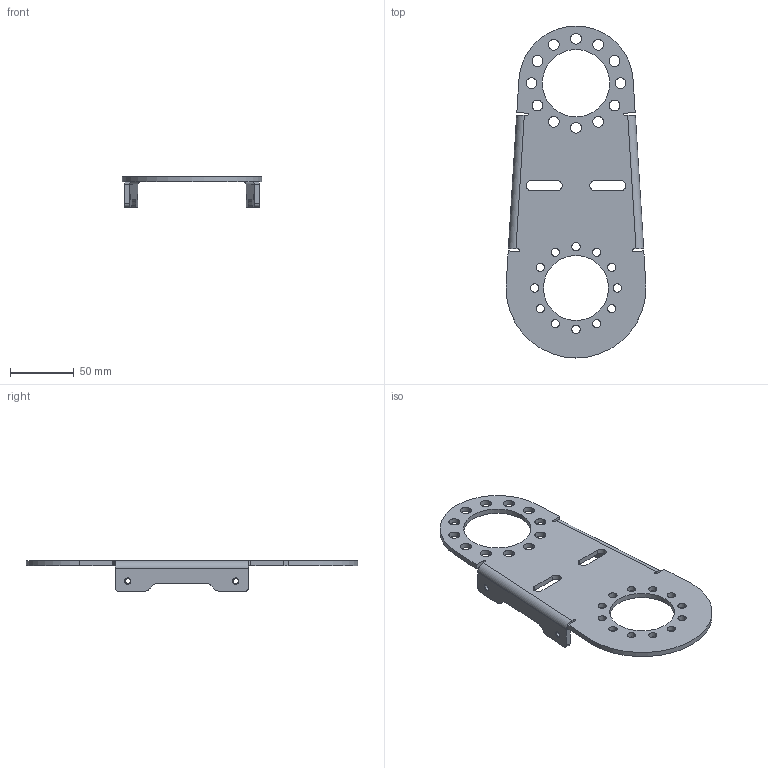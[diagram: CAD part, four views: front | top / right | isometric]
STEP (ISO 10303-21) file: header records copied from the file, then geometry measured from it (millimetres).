
FILE_DESCRIPTION (( 'STEP AP203' ), '1' );
FILE_NAME ('084.821.004.STEP', '2013-01-29T13:15:43', ( 'Alusic' ), ( 'Alusic' ), 'SwSTEP 2.0', 'SolidWorks 2011', '' );
FILE_SCHEMA (( 'CONFIG_CONTROL_DESIGN' ));
Length unit declared in the file: millimetre
Products named in the file (1): 084.821.004
Bounding box: 110 x 261 x 24 mm (x, y, z)
Volume: 85674.4 mm3; surface area: 50259.8 mm2
Topology: 1 solids, 1 shells, 140 faces, 390 edges, 252 vertices
Faces by surface type: cylinder 92, plane 40, cone 8
Entity records: 4759 total; most frequent: DIRECTION 864, CARTESIAN_POINT 783, ORIENTED_EDGE 780, EDGE_CURVE 390, AXIS2_PLACEMENT_3D 333, VERTEX_POINT 252, EDGE_LOOP 204, LINE 198
